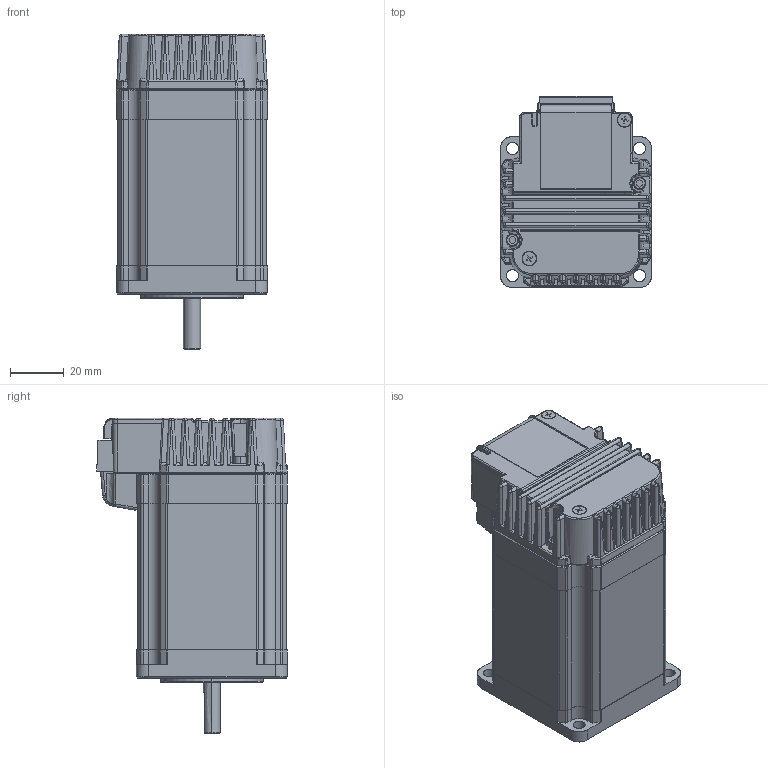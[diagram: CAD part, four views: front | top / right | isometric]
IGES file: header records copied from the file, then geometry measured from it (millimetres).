
Start section: SolidWorks IGES file using analytic representation for surfaces
Global section: file name: \\192.168.1.175\Public\CAD Files\Motors\CoolmuscleMotors\CM3 Series CAD\CM3-23L\CM3-23L50A.IGS; native system: SolidWorks 2019; preprocessor: SolidWorks 2019; author: Chris Murray; date: 210720.110719; units: millimetre
Bounding box: 56 x 70.75 x 116.9 mm (x, y, z)
Surface area: 40461.4 mm2 (no closed solid volume)
Topology: 0 solids, 0 shells, 1336 faces, 10572 edges, 10514 vertices
Faces by surface type: bspline 797, revolution 539
